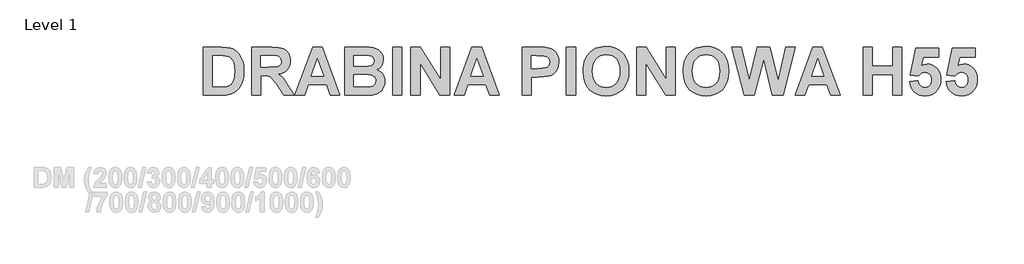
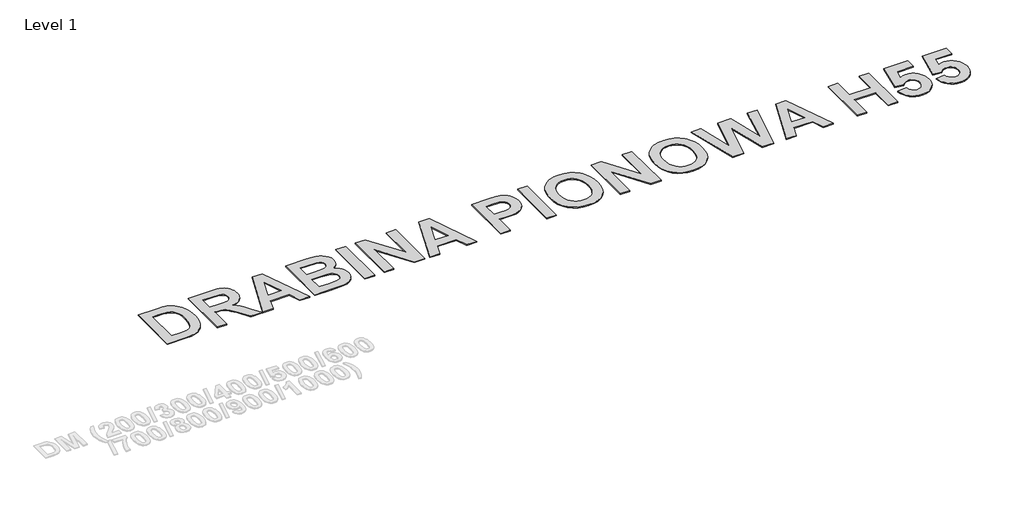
# One storey, part 37 of 42: 1 proxy.
"""IFC4 building model written with IfcOpenShell, lengths in millimetres."""

from ifc_helpers import new_model, si_unit, origin, origin_with_axes, place, context, project, spatial, polyline, outline, extrude, element, save

model = new_model("IFC4")

# Units and contexts
model_context = context("Model", 3, world=origin())
ifc_project = project(units=[si_unit("LENGTHUNIT", "METRE", prefix="MILLI")], contexts=[model_context])

# Site, building, storey
site = spatial("IfcSite", under=ifc_project)
building = spatial("IfcBuilding", under=site)
storey = spatial("IfcBuildingStorey", under=building, Name="Level 1", Elevation=0.0)

# Proxy
placement = place(None, origin())
element("IfcBuildingElementProxy", 1, Name="600mm Arial", ObjectType="600mm Arial", at=placement, inside=storey, context=model_context, shape_type="SweptSolid", body=[
    extrude(outline(polyline([(32755.7457223, 6390.0050794), (32982.4194253, 6390.0050794), (33049.9812456, 6387.0824614), (33099.3241482, 6378.3146072), (33125.3809963, 6368.8113539), (33149.5020844, 6356.2431473), (33171.6874125, 6340.6099873), (33191.9369806, 6321.911874), (33210.0657528, 6300.5426016), (33225.8886931, 6276.8959644), (33250.6170785, 6222.770596), (33259.4181443, 6191.7177789), (33265.7046199, 6157.2394258), (33270.7338003, 6078.0061112), (33266.0272465, 6007.7114531), (33251.9075852, 5947.7408485), (33239.1353647, 5915.9336544), (33223.895999, 5887.3147709), (33206.1894882, 5861.8841981), (33186.0158323, 5839.6419359), (33148.1356656, 5811.782174), (33098.8686752, 5790.7545063), (33050.9301476, 5781.0757062), (32989.0996951, 5777.8494395), (32755.7457223, 5777.8494395), (32755.7457223, 6390.0050794)]), holes=[polyline([(32872.3467965, 6283.1207614), (32872.3467965, 5884.7337576), (32971.6398989, 5884.7337576), (33019.6163825, 5886.1760886), (33052.1067861, 5890.5030816), (33081.6935495, 5900.3906401), (33105.7766816, 5915.4781814), (33125.1532598, 5938.840148), (33140.620362, 5973.5509821), (33150.754635, 6021.2997293), (33154.132726, 6083.7754351), (33150.754635, 6145.3781511), (33140.620362, 6190.8115776), (33124.4320943, 6224.0611026), (33102.8920196, 6249.1121147), (33075.3928404, 6266.6478231), (33041.3272597, 6277.3514374), (33000.0690019, 6281.6784304), (32932.1655768, 6283.1207614), (32872.3467965, 6283.1207614)])]), origin_with_axes(), (0.0, 0.0, 1.0), 10.0),
    extrude(outline(polyline([(33367.9013622, 5777.8494395), (33367.9013622, 6390.0050794), (33625.3954013, 6390.0050794), (33709.2783356, 6385.8678669), (33741.256332, 6380.6963511), (33766.5920147, 6373.4562291), (33787.5058141, 6363.5686705), (33806.218161, 6350.4548453), (33822.7290553, 6334.1147533), (33837.038497, 6314.5483947), (33848.596123, 6292.6002921), (33856.8515702, 6269.1149683), (33861.8048385, 6244.0924233), (33863.4559279, 6217.5326571), (33861.0694395, 6184.4254673), (33853.9099741, 6154.3357858), (33841.9775318, 6127.2636125), (33825.2721126, 6103.2089475), (33803.8126945, 6082.750621), (33777.6182556, 6066.4674632), (33746.6887958, 6054.359474), (33711.0243152, 6046.4266535), (33744.8431815, 6022.0588509), (33772.2095143, 5995.4136835), (33800.5247492, 5956.8123513), (33837.1903213, 5896.5760542), (33912.0397089, 5777.8494395), (33775.8532979, 5777.8494395), (33687.1878977, 5917.679634), (33644.3544627, 5971.3685076), (33617.576449, 6000.6516224), (33598.2568049, 6015.0559544), (33577.7984784, 6024.1084792), (33550.6409039, 6028.8909451), (33511.223516, 6030.4851004), (33484.5024365, 6030.4851004), (33484.5024365, 5777.8494395), (33367.9013622, 5777.8494395)]), holes=[polyline([(33484.5024365, 6137.3694185), (33580.6072282, 6137.3694185), (33656.4624518, 6139.1343762), (33697.2842146, 6144.4292492), (33718.0461898, 6154.0321371), (33733.7220504, 6168.7211396), (33743.5716528, 6188.0977179), (33746.8548536, 6211.7633331), (33742.5278607, 6237.9720055), (33729.5468817, 6258.6011344), (33708.6710383, 6273.1572907), (33680.6594521, 6281.1470453), (33585.9210792, 6283.1207614), (33484.5024365, 6283.1207614), (33484.5024365, 6137.3694185)])]), origin_with_axes(), (0.0, 0.0, 1.0), 10.0),
    extrude(outline(polyline([(34495.0450803, 5777.8494395), (34372.5228577, 5777.8494395), (34324.546374, 5913.8840261), (34093.3179415, 5913.8840261), (34045.9487551, 5777.8494395), (33921.7564651, 5777.8494395), (34145.2418574, 6390.0050794), (34269.4341475, 6390.0050794), (34495.0450803, 5777.8494395)]), holes=[polyline([(34287.1975924, 6020.7683442), (34208.4007727, 6244.2537366), (34130.6667232, 6020.7683442), (34287.1975924, 6020.7683442)])]), origin_with_axes(), (0.0, 0.0, 1.0), 10.0),
    extrude(outline(polyline([(34553.3456174, 6390.0050794), (34804.6148595, 6390.0050794), (34869.6905567, 6388.4868363), (34915.8261706, 6383.9321068), (34950.5559828, 6374.5379773), (34981.4142749, 6358.501534), (35007.926596, 6335.9556231), (35029.618495, 6307.033091), (35044.0797611, 6272.9675103), (35048.9001831, 6234.9924534), (35043.1498372, 6193.6203274), (35025.8987993, 6155.7401607), (34998.779181, 6124.122747), (34963.4230935, 6101.5388801), (34987.240533, 6091.9929262), (35008.1353544, 6079.6002665), (35026.1075578, 6064.3609008), (35041.157143, 6046.2748292), (35053.0468847, 6025.9019039), (35061.5395574, 6003.801977), (35066.635161, 5979.9750485), (35068.3336955, 5954.4211184), (35063.4563394, 5913.4095751), (35048.824271, 5873.5746704), (35025.746975, 5838.275517), (34995.5339362, 5810.8712281), (34957.8245719, 5791.9121667), (34912.2582992, 5781.948696), (34762.5595241, 5777.8494395), (34553.3456174, 5777.8494395), (34553.3456174, 6390.0050794)]), holes=[polyline([(34669.9466917, 6040.2018566), (34669.9466917, 5884.7337576), (34793.2280359, 5884.7337576), (34884.6262738, 5888.3775411), (34911.6130458, 5896.5191201), (34933.0582304, 5911.5307492), (34947.0640235, 5933.1087801), (34951.7326212, 5960.9495639), (34948.1267937, 5985.0896301), (34937.3093112, 6005.282264), (34919.6976906, 6021.0340368), (34895.7094488, 6031.8515193), (34852.5913432, 6038.1142723), (34777.5901314, 6040.2018566), (34669.9466917, 6040.2018566)]), polyline([(34669.9466917, 6283.1207614), (34669.9466917, 6147.0861747), (34758.9157406, 6147.0861747), (34857.6015456, 6149.0598908), (34888.6685962, 6156.1576775), (34912.3342113, 6170.1634706), (34927.3078845, 6190.3940607), (34932.2991088, 6216.1662382), (34927.9910939, 6240.8187115), (34915.067049, 6260.4230262), (34893.6787986, 6274.1441487), (34863.9781669, 6281.1470453), (34747.9843899, 6283.1207614), (34669.9466917, 6283.1207614)])]), origin_with_axes(), (0.0, 0.0, 1.0), 10.0),
    extrude(outline(polyline([(35165.5012574, 5777.8494395), (35165.5012574, 6390.0050794), (35282.1023317, 6390.0050794), (35282.1023317, 5777.8494395), (35165.5012574, 5777.8494395)])), origin_with_axes(), (0.0, 0.0, 1.0), 10.0),
    extrude(outline(polyline([(35398.703406, 5777.8494395), (35398.703406, 6390.0050794), (35520.9219799, 6390.0050794), (35777.6568974, 5977.9538873), (35777.6568974, 6390.0050794), (35894.2579716, 6390.0050794), (35894.2579716, 5777.8494395), (35768.2437898, 5777.8494395), (35515.3044802, 6183.827659), (35515.3044802, 5777.8494395), (35398.703406, 5777.8494395)])), origin_with_axes(), (0.0, 0.0, 1.0), 10.0),
    extrude(outline(polyline([(36525.847124, 5777.8494395), (36403.3249014, 5777.8494395), (36355.3484177, 5913.8840261), (36124.1199853, 5913.8840261), (36076.7507988, 5777.8494395), (35952.5585088, 5777.8494395), (36176.0439012, 6390.0050794), (36300.2361912, 6390.0050794), (36525.847124, 5777.8494395)]), holes=[polyline([(36317.9996361, 6020.7683442), (36239.2028164, 6244.2537366), (36161.4687669, 6020.7683442), (36317.9996361, 6020.7683442)])]), origin_with_axes(), (0.0, 0.0, 1.0), 10.0),
    extrude(outline(polyline([(36817.3498097, 5777.8494395), (36817.3498097, 6390.0050794), (37014.5695955, 6390.0050794), (37107.220384, 6387.7277147), (37160.7764113, 6380.8956205), (37185.898591, 6372.0471096), (37208.8857413, 6359.1657654), (37229.7378621, 6342.2515877), (37248.4549535, 6321.3045767), (37263.8983331, 6296.675826), (37274.9293185, 6268.7164294), (37281.5479097, 6237.4263869), (37283.7541068, 6202.8056985), (37278.5731021, 6151.2423653), (37272.0968461, 6128.8055782), (37263.0300878, 6108.5987107), (37239.4973189, 6074.5141519), (37210.3470503, 6048.6281061), (37178.1413174, 6030.5040785), (37145.4421554, 6019.705574), (37090.5956215, 6013.2150845), (37015.6323657, 6011.051588), (36933.950884, 6011.051588), (36933.950884, 5777.8494395), (36817.3498097, 5777.8494395)]), holes=[polyline([(36933.950884, 6283.1207614), (36933.950884, 6117.9359061), (37006.3710825, 6117.9359061), (37071.598604, 6120.2132709), (37110.9021237, 6127.0453651), (37134.3969365, 6138.7548154), (37152.1983375, 6155.6642485), (37163.4143588, 6176.7488503), (37167.1530325, 6200.9838067), (37161.8961156, 6229.9442949), (37146.1253649, 6253.3631955), (37122.3458814, 6270.1397824), (37093.0627666, 6279.1733292), (36997.8689208, 6283.1207614), (36933.950884, 6283.1207614)])]), origin_with_axes(), (0.0, 0.0, 1.0), 10.0),
    extrude(outline(polyline([(37380.9216687, 5777.8494395), (37380.9216687, 6390.0050794), (37497.522743, 6390.0050794), (37497.522743, 5777.8494395), (37380.9216687, 5777.8494395)])), origin_with_axes(), (0.0, 0.0, 1.0), 10.0),
    extrude(outline(polyline([(37594.6903049, 6080.1316516), (37596.4078175, 6124.9388027), (37601.5603552, 6165.988302), (37610.147918, 6203.2801495), (37622.170506, 6236.8143451), (37646.4054624, 6281.0521551), (37678.1177663, 6320.5454551), (37715.2577894, 6352.8650563), (37755.7759036, 6375.5817695), (37784.9451502, 6386.1430484), (37816.2778933, 6393.6868191), (37849.7741329, 6398.2130815), (37885.433869, 6399.7218356), (37948.5358502, 6394.4886413), (38004.9955175, 6378.7890581), (38054.812871, 6352.6230863), (38097.9879107, 6315.9907257), (38116.6694183, 6294.0366924), (38132.8600582, 6270.0401477), (38157.7687349, 6215.9195237), (38172.713941, 6153.6288538), (38177.6956763, 6083.1681379), (38172.751897, 6013.1866175), (38157.9205592, 5951.2707638), (38133.2016629, 5897.4205769), (38117.1343802, 5873.5201085), (38098.595208, 5851.6360568), (38055.7048388, 5815.1033309), (38006.1341998, 5789.0085267), (37949.883291, 5773.3516441), (37886.9521122, 5768.1326833), (37823.356702, 5773.3279216), (37766.6313422, 5788.9136365), (37716.7760326, 5814.8898279), (37673.7907733, 5851.256496), (37639.1843184, 5896.732623), (37614.465422, 5950.0371913), (37599.6340842, 6011.1702008), (37594.6903049, 6080.1316516)]), holes=[polyline([(37711.2913792, 6084.3827324), (37714.3895441, 6035.9602648), (37723.6840389, 5993.7815721), (37739.1748636, 5957.8466545), (37760.8620182, 5928.1555118), (37787.3221497, 5904.9074135), (37817.1319051, 5888.301629), (37850.2912845, 5878.3381583), (37886.8002879, 5875.0170014), (37923.2713352, 5878.3144357), (37956.3168463, 5888.2067388), (37985.9368214, 5904.6939105), (38012.1312603, 5927.775951), (38033.5527223, 5957.4528602), (38048.8537666, 5993.724638), (38058.0343932, 6036.5912846), (38061.094602, 6086.0527999), (38058.1150498, 6134.8263612), (38049.1763933, 6176.9955648), (38034.2786323, 6212.5604107), (38013.421767, 6241.5208989), (37987.6306114, 6263.9719196), (37957.9299797, 6280.0083629), (37924.3198718, 6289.6302289), (37886.8002879, 6292.8375175), (37849.2427478, 6289.5922728), (37815.5187718, 6279.8565386), (37785.6283597, 6263.6303149), (37759.5715115, 6240.9136017), (37738.4489536, 6211.6589539), (37723.3614123, 6175.8189264), (37714.3088875, 6133.3935192), (37711.2913792, 6084.3827324)])]), origin_with_axes(), (0.0, 0.0, 1.0), 10.0),
    extrude(outline(polyline([(38274.8632382, 5777.8494395), (38274.8632382, 6390.0050794), (38397.0818122, 6390.0050794), (38653.8167296, 5977.9538873), (38653.8167296, 6390.0050794), (38770.4178039, 6390.0050794), (38770.4178039, 5777.8494395), (38644.4036221, 5777.8494395), (38391.4643125, 6183.827659), (38391.4643125, 5777.8494395), (38274.8632382, 5777.8494395)])), origin_with_axes(), (0.0, 0.0, 1.0), 10.0),
    extrude(outline(polyline([(38867.5853658, 6080.1316516), (38869.3028784, 6124.9388027), (38874.4554161, 6165.988302), (38883.0429789, 6203.2801495), (38895.0655669, 6236.8143451), (38919.3005233, 6281.0521551), (38951.0128272, 6320.5454551), (38988.1528503, 6352.8650563), (39028.6709645, 6375.5817695), (39057.8402111, 6386.1430484), (39089.1729542, 6393.6868191), (39122.6691938, 6398.2130815), (39158.3289299, 6399.7218356), (39221.430911, 6394.4886413), (39277.8905784, 6378.7890581), (39327.7079319, 6352.6230863), (39370.8829716, 6315.9907257), (39389.5644792, 6294.0366924), (39405.755119, 6270.0401477), (39430.6637958, 6215.9195237), (39445.6090019, 6153.6288538), (39450.5907372, 6083.1681379), (39445.6469579, 6013.1866175), (39430.8156201, 5951.2707638), (39406.0967238, 5897.4205769), (39390.0294411, 5873.5201085), (39371.4902689, 5851.6360568), (39328.5998997, 5815.1033309), (39279.0292607, 5789.0085267), (39222.7783518, 5773.3516441), (39159.8471731, 5768.1326833), (39096.2517629, 5773.3279216), (39039.5264031, 5788.9136365), (38989.6710935, 5814.8898279), (38946.6858342, 5851.256496), (38912.0793793, 5896.732623), (38887.3604829, 5950.0371913), (38872.5291451, 6011.1702008), (38867.5853658, 6080.1316516)]), holes=[polyline([(38984.1864401, 6084.3827324), (38987.284605, 6035.9602648), (38996.5790998, 5993.7815721), (39012.0699245, 5957.8466545), (39033.7570791, 5928.1555118), (39060.2172106, 5904.9074135), (39090.026966, 5888.301629), (39123.1863454, 5878.3381583), (39159.6953488, 5875.0170014), (39196.1663961, 5878.3144357), (39229.2119072, 5888.2067388), (39258.8318823, 5904.6939105), (39285.0263212, 5927.775951), (39306.4477832, 5957.4528602), (39321.7488275, 5993.724638), (39330.9294541, 6036.5912846), (39333.9896629, 6086.0527999), (39331.0101107, 6134.8263612), (39322.0714542, 6176.9955648), (39307.1736932, 6212.5604107), (39286.3168279, 6241.5208989), (39260.5256723, 6263.9719196), (39230.8250406, 6280.0083629), (39197.2149327, 6289.6302289), (39159.6953488, 6292.8375175), (39122.1378087, 6289.5922728), (39088.4138327, 6279.8565386), (39058.5234206, 6263.6303149), (39032.4665724, 6240.9136017), (39011.3440145, 6211.6589539), (38996.2564732, 6175.8189264), (38987.2039484, 6133.3935192), (38984.1864401, 6084.3827324)])]), origin_with_axes(), (0.0, 0.0, 1.0), 10.0),
    extrude(outline(polyline([(39643.5594422, 5777.8494395), (39489.457762, 6390.0050794), (39609.0953226, 6390.0050794), (39708.0847762, 5969.4517256), (39814.5136214, 6390.0050794), (39971.3481393, 6390.0050794), (40077.3215115, 5962.4678071), (40176.3109652, 6390.0050794), (40295.9485257, 6390.0050794), (40144.1242103, 5777.8494395), (40006.1159075, 5777.8494395), (39892.7031439, 6235.4479263), (39777.0130155, 5777.8494395), (39643.5594422, 5777.8494395)])), origin_with_axes(), (0.0, 0.0, 1.0), 10.0),
    extrude(outline(polyline([(40869.237141, 5777.8494395), (40746.7149184, 5777.8494395), (40698.7384347, 5913.8840261), (40467.5100022, 5913.8840261), (40420.1408158, 5777.8494395), (40295.9485257, 5777.8494395), (40519.4339181, 6390.0050794), (40643.6262082, 6390.0050794), (40869.237141, 5777.8494395)]), holes=[polyline([(40661.3896531, 6020.7683442), (40582.5928334, 6244.2537366), (40504.8587838, 6020.7683442), (40661.3896531, 6020.7683442)])]), origin_with_axes(), (0.0, 0.0, 1.0), 10.0),
    extrude(outline(polyline([(41160.7398267, 5777.8494395), (41160.7398267, 6390.0050794), (41277.3409009, 6390.0050794), (41277.3409009, 6147.0861747), (41539.6933181, 6147.0861747), (41539.6933181, 6390.0050794), (41656.2943924, 6390.0050794), (41656.2943924, 5777.8494395), (41539.6933181, 5777.8494395), (41539.6933181, 6040.2018566), (41277.3409009, 6040.2018566), (41277.3409009, 5777.8494395), (41160.7398267, 5777.8494395)])), origin_with_axes(), (0.0, 0.0, 1.0), 10.0),
    extrude(outline(polyline([(41753.4619543, 5950.1700375), (41860.3462723, 5962.4678071), (41870.290765, 5926.2956639), (41878.963729, 5911.3694359), (41890.1038382, 5898.5497703), (41916.7490055, 5880.9001936), (41947.1897808, 5875.0170014), (41964.9295032, 5876.5779451), (41981.2553616, 5881.2607763), (41996.1673561, 5889.0654951), (42009.6654866, 5899.9921013), (42020.8577854, 5914.059573), (42028.8522845, 5931.2868883), (42033.6489839, 5951.6740472), (42035.2478838, 5975.2210496), (42033.7628522, 5997.2830204), (42029.3077574, 6016.4033952), (42021.8825995, 6032.5821738), (42011.4873784, 6045.8193563), (41998.7104133, 6056.1149427), (41984.1400236, 6063.468933), (41967.7762091, 6067.8813271), (41949.6189698, 6069.3521252), (41926.4088276, 6066.3156389), (41904.451236, 6057.2061799), (41883.746195, 6042.0237484), (41864.2937046, 6020.7683442), (41763.1787104, 6035.7989515), (41831.1960038, 6380.2883233), (42122.6986895, 6380.2883233), (42122.6986895, 6263.687249), (41925.4789037, 6263.687249), (41901.9461348, 6152.4000257), (41939.105136, 6170.2773389), (41977.0991709, 6176.2364433), (42012.2275219, 6172.7871846), (42044.5850792, 6162.4394086), (42074.1718426, 6145.1931153), (42100.9878124, 6121.0483046), (42123.2395636, 6091.3998625), (42139.1336716, 6057.6426748), (42148.6701364, 6019.7767417), (42151.848958, 5977.8020629), (42149.2015215, 5942.1138598), (42141.259212, 5908.3803947), (42128.0220295, 5876.6016677), (42109.489974, 5846.7776787), (42077.7681811, 5812.3704932), (42040.4478666, 5787.7939321), (41997.5290304, 5773.0479955), (41949.0116726, 5768.1326833), (41909.9121668, 5771.2166147), (41874.59878, 5780.4684089), (41843.071512, 5795.888066), (41815.3303628, 5817.4755858), (41792.07752, 5844.2725775), (41774.015171, 5875.32065), (41761.1433157, 5910.6198034), (41753.4619543, 5950.1700375)])), origin_with_axes(), (0.0, 0.0, 1.0), 10.0),
    extrude(outline(polyline([(42219.8662514, 5950.1700375), (42326.7505695, 5962.4678071), (42336.6950621, 5926.2956639), (42345.3680262, 5911.3694359), (42356.5081353, 5898.5497703), (42383.1533027, 5880.9001936), (42413.5940779, 5875.0170014), (42431.3338003, 5876.5779451), (42447.6596587, 5881.2607763), (42462.5716532, 5889.0654951), (42476.0697837, 5899.9921013), (42487.2620825, 5914.059573), (42495.2565816, 5931.2868883), (42500.0532811, 5951.6740472), (42501.6521809, 5975.2210496), (42500.1671493, 5997.2830204), (42495.7120545, 6016.4033952), (42488.2868966, 6032.5821738), (42477.8916755, 6045.8193563), (42465.1147105, 6056.1149427), (42450.5443207, 6063.468933), (42434.1805062, 6067.8813271), (42416.023267, 6069.3521252), (42392.8131247, 6066.3156389), (42370.8555331, 6057.2061799), (42350.1504921, 6042.0237484), (42330.6980017, 6020.7683442), (42229.5830076, 6035.7989515), (42297.6003009, 6380.2883233), (42589.1029866, 6380.2883233), (42589.1029866, 6263.687249), (42391.8832008, 6263.687249), (42368.3504319, 6152.4000257), (42405.5094331, 6170.2773389), (42443.5034681, 6176.2364433), (42478.6318191, 6172.7871846), (42510.9893763, 6162.4394086), (42540.5761398, 6145.1931153), (42567.3921095, 6121.0483046), (42589.6438607, 6091.3998625), (42605.5379688, 6057.6426748), (42615.0744336, 6019.7767417), (42618.2532552, 5977.8020629), (42615.6058187, 5942.1138598), (42607.6635092, 5908.3803947), (42594.4263267, 5876.6016677), (42575.8942712, 5846.7776787), (42544.1724782, 5812.3704932), (42506.8521637, 5787.7939321), (42463.9333275, 5773.0479955), (42415.4159697, 5768.1326833), (42376.316464, 5771.2166147), (42341.0030771, 5780.4684089), (42309.4758091, 5795.888066), (42281.7346599, 5817.4755858), (42258.4818171, 5844.2725775), (42240.4194681, 5875.32065), (42227.5476128, 5910.6198034), (42219.8662514, 5950.1700375)])), origin_with_axes(), (0.0, 0.0, 1.0), 10.0),
])

save(model, "model.ifc")
